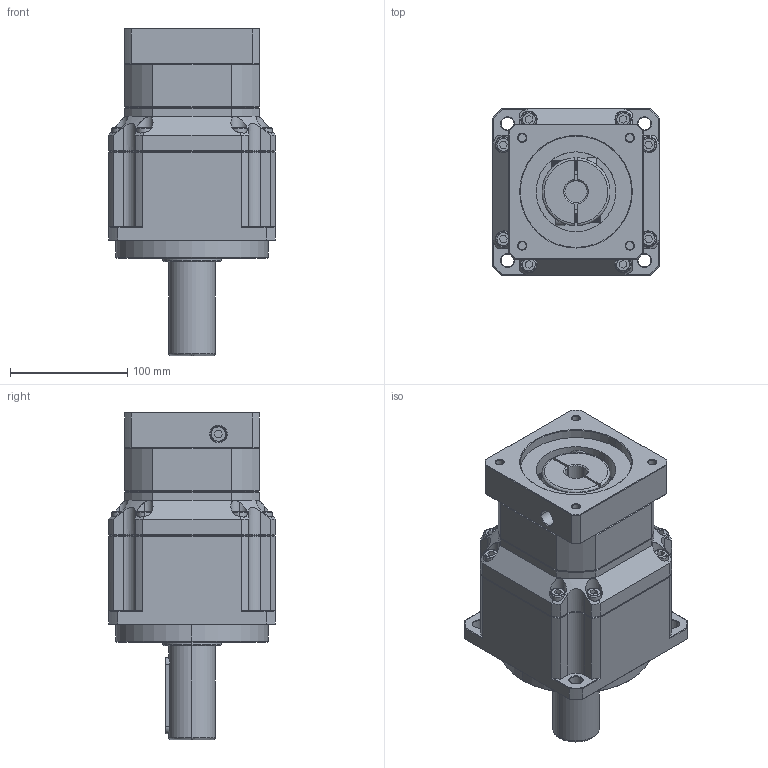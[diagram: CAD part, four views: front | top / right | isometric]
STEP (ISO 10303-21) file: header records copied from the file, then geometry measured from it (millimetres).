
FILE_DESCRIPTION (( 'STEP AP214' ), '1' );
FILE_NAME ('ZPB142-L2-P1-S2-19-95-130-M8.step', '2024-07-05T00:17:35', ( 'Windows 蚚誧' ), ( 'Organization' ), 'SwSTEP 2.0', 'SolidWorks 2016', '' );
FILE_SCHEMA (( 'AUTOMOTIVE_DESIGN' ));
Length unit declared in the file: millimetre
Products named in the file (1): ZPB142-L2-P1-S2-19-95-130-M8
Bounding box: 142 x 142 x 279 mm (x, y, z)
Surface area: 187761.7 mm2 (no closed solid volume)
Topology: 0 solids, 3 shells, 1772 faces, 4755 edges, 3082 vertices
Faces by surface type: plane 1023, bspline 397, cylinder 187, cone 165
Full cylindrical faces by diameter (mm): 14 x1
Entity records: 100958 total; most frequent: CARTESIAN_POINT 52204, ORIENTED_EDGE 9479, DIRECTION 6974, EDGE_CURVE 4754, VECTOR 3178, LINE 3178, VERTEX_POINT 3082, AXIS2_PLACEMENT_3D 1898
